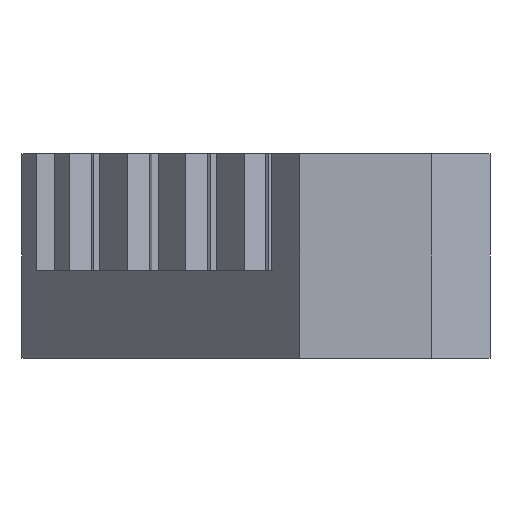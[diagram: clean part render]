
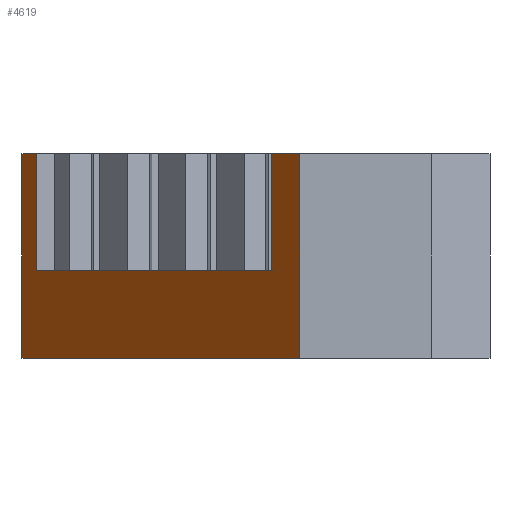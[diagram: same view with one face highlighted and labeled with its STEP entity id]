
A CAD part, left-side view. The second image highlights one B-rep face of the part: STEP entity #4619.
In plain terms, the highlighted planar face has unit normal (-0.643, 0.766, 0).
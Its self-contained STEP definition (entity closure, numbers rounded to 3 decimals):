
#193=LINE('',#6077,#561);
#203=LINE('',#6094,#571);
#206=LINE('',#6101,#574);
#417=LINE('',#6674,#785);
#430=LINE('',#6699,#798);
#437=LINE('',#6713,#805);
#438=LINE('',#6715,#806);
#439=LINE('',#6717,#807);
#561=VECTOR('',#5119,1000.);
#571=VECTOR('',#5131,1000.);
#574=VECTOR('',#5138,1000.);
#785=VECTOR('',#5697,1000.);
#798=VECTOR('',#5710,1000.);
#805=VECTOR('',#5723,1000.);
#806=VECTOR('',#5726,1000.);
#807=VECTOR('',#5727,1000.);
#1575=ORIENTED_EDGE('',*,*,#1914,.F.);
#1576=ORIENTED_EDGE('',*,*,#1927,.T.);
#1577=ORIENTED_EDGE('',*,*,#2226,.F.);
#1578=ORIENTED_EDGE('',*,*,#2234,.T.);
#1579=ORIENTED_EDGE('',*,*,#2235,.T.);
#1580=ORIENTED_EDGE('',*,*,#2233,.F.);
#1581=ORIENTED_EDGE('',*,*,#2213,.F.);
#1582=ORIENTED_EDGE('',*,*,#1924,.F.);
#1914=EDGE_CURVE('',#2377,#2378,#193,.T.);
#1924=EDGE_CURVE('',#2378,#2381,#203,.T.);
#1927=EDGE_CURVE('',#2377,#2384,#206,.T.);
#2213=EDGE_CURVE('',#2381,#2573,#417,.T.);
#2226=EDGE_CURVE('',#2584,#2384,#430,.T.);
#2233=EDGE_CURVE('',#2573,#2588,#437,.T.);
#2234=EDGE_CURVE('',#2584,#2589,#438,.T.);
#2235=EDGE_CURVE('',#2589,#2588,#439,.T.);
#2377=VERTEX_POINT('',#6078);
#2378=VERTEX_POINT('',#6079);
#2381=VERTEX_POINT('',#6091);
#2384=VERTEX_POINT('',#6100);
#2573=VERTEX_POINT('',#6675);
#2584=VERTEX_POINT('',#6698);
#2588=VERTEX_POINT('',#6712);
#2589=VERTEX_POINT('',#6716);
#2863=EDGE_LOOP('',(#1575,#1576,#1577,#1578,#1579,#1580,#1581,#1582));
#3053=FACE_BOUND('',#2863,.T.);
#3199=PLANE('',#4885);
#4619=ADVANCED_FACE('',(#3053),#3199,.F.);
#4885=AXIS2_PLACEMENT_3D('',#6714,#5724,#5725);
#5119=DIRECTION('',(-0.766,-0.643,0.));
#5131=DIRECTION('',(0.,0.,1.));
#5138=DIRECTION('',(0.,0.,1.));
#5697=DIRECTION('',(-0.766,-0.643,0.));
#5710=DIRECTION('',(-0.766,-0.643,0.));
#5723=DIRECTION('',(0.,0.,-1.));
#5724=DIRECTION('',(0.643,-0.766,0.));
#5725=DIRECTION('',(0.766,0.643,0.));
#5726=DIRECTION('',(0.,0.,-1.));
#5727=DIRECTION('',(-0.766,-0.643,0.));
#6077=CARTESIAN_POINT('',(7.231,13.505,-0.5));
#6078=CARTESIAN_POINT('',(7.231,13.505,-0.5));
#6079=CARTESIAN_POINT('',(-2.344,5.47,-0.5));
#6091=CARTESIAN_POINT('',(-2.344,5.47,3.5));
#6094=CARTESIAN_POINT('',(-2.344,5.47,-0.5));
#6100=CARTESIAN_POINT('',(7.231,13.505,3.5));
#6101=CARTESIAN_POINT('',(7.231,13.505,-0.5));
#6674=CARTESIAN_POINT('',(-3.5,4.5,3.5));
#6675=CARTESIAN_POINT('',(-3.5,4.5,3.5));
#6698=CARTESIAN_POINT('',(7.822,14.,3.5));
#6699=CARTESIAN_POINT('',(-3.5,4.5,3.5));
#6712=CARTESIAN_POINT('',(-3.5,4.5,-3.5));
#6713=CARTESIAN_POINT('',(-3.5,4.5,3.5));
#6714=CARTESIAN_POINT('',(-3.5,4.5,3.5));
#6715=CARTESIAN_POINT('',(7.822,14.,3.5));
#6716=CARTESIAN_POINT('',(7.822,14.,-3.5));
#6717=CARTESIAN_POINT('',(-3.5,4.5,-3.5));
